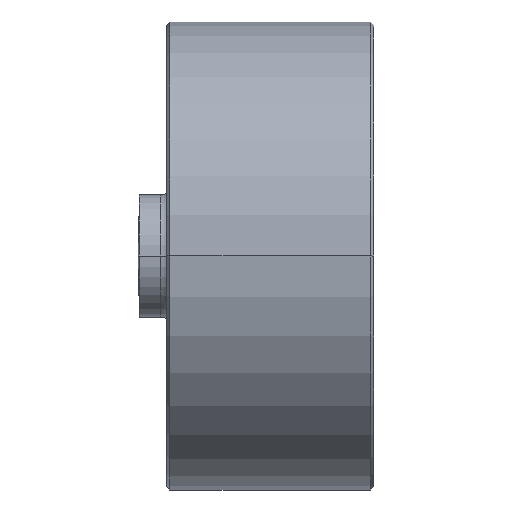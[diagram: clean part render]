
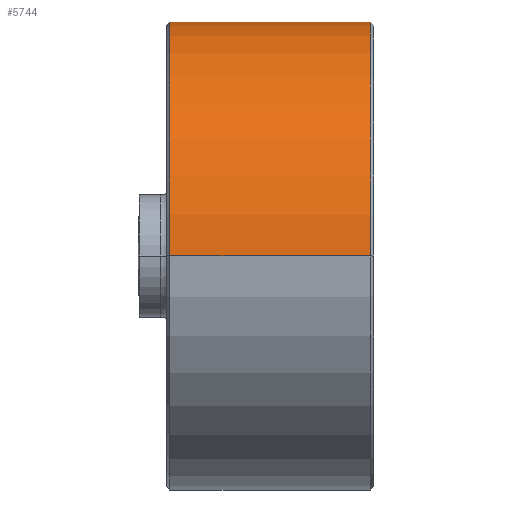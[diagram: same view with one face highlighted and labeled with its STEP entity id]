
A CAD part, left-side view. The second image highlights one B-rep face of the part: STEP entity #5744.
In plain terms, the highlighted cylindrical face has radius 37.85 mm (diameter 75.7 mm), a partial arc.
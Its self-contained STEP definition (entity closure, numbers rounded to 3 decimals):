
#2693 = CARTESIAN_POINT ( 'NONE',  ( 0., 0.5, 0. ) ) ;
#2695 = DIRECTION ( 'NONE',  ( 0., 1., 0. ) ) ;
#2697 = DIRECTION ( 'NONE',  ( -1., 0., 0. ) ) ;
#2867 = LINE ( 'NONE', #2883, #17584 ) ;
#2883 = CARTESIAN_POINT ( 'NONE',  ( 37.85, 0., 0. ) ) ;
#2887 = DIRECTION ( 'NONE',  ( 0., -1., 0. ) ) ;
#4208 = CARTESIAN_POINT ( 'NONE',  ( 37.781, 5.573, 2.277 ) ) ;
#4209 = CARTESIAN_POINT ( 'NONE',  ( 37.789, 5.864, 2.157 ) ) ;
#4210 = CARTESIAN_POINT ( 'NONE',  ( 37.793, 6.002, 2.083 ) ) ;
#4211 = CARTESIAN_POINT ( 'NONE',  ( 37.802, 6.262, 1.909 ) ) ;
#4213 = CARTESIAN_POINT ( 'NONE',  ( 37.807, 6.386, 1.808 ) ) ;
#4214 = CARTESIAN_POINT ( 'NONE',  ( 37.831, 6.882, 1.205 ) ) ;
#4216 = CARTESIAN_POINT ( 'NONE',  ( 37.817, 6.607, 1.587 ) ) ;
#4217 = CARTESIAN_POINT ( 'NONE',  ( 37.822, 6.707, 1.466 ) ) ;
#4220 = CARTESIAN_POINT ( 'NONE',  ( 37.835, 6.957, 1.065 ) ) ;
#4223 = CARTESIAN_POINT ( 'NONE',  ( 37.846, 7.136, 0.632 ) ) ;
#4227 = CARTESIAN_POINT ( 'NONE',  ( 37.85, 7.2, 0.317 ) ) ;
#4228 = CARTESIAN_POINT ( 'NONE',  ( 37.85, 7.2, 0. ) ) ;
#4236 = CARTESIAN_POINT ( 'NONE',  ( 37.779, 5.421, 2.323 ) ) ;
#4266 = CARTESIAN_POINT ( 'NONE',  ( 37.775, 5.115, 2.384 ) ) ;
#4697 = EDGE_CURVE ( 'NONE', #10686, #17283, #9228, .T. ) ;
#5744 = ADVANCED_FACE ( 'NONE', ( #8424 ), #8426, .T. ) ;
#5805 = EDGE_CURVE ( 'NONE', #17089, #17126, #17586, .T. ) ;
#5823 = EDGE_CURVE ( 'NONE', #17161, #17283, #2867, .T. ) ;
#5832 = EDGE_CURVE ( 'NONE', #10671, #17089, #10890, .T. ) ;
#5860 = EDGE_CURVE ( 'NONE', #17222, #10686, #9224, .T. ) ;
#5867 = EDGE_CURVE ( 'NONE', #17161, #10671, #17556, .T. ) ;
#5889 = EDGE_CURVE ( 'NONE', #17222, #17126, #8196, .T. ) ;
#8139 = CARTESIAN_POINT ( 'NONE',  ( 0., 33., 0. ) ) ;
#8140 = DIRECTION ( 'NONE',  ( 0., -1., 0. ) ) ;
#8141 = DIRECTION ( 'NONE',  ( 1., 0., 0. ) ) ;
#8196 = LINE ( 'NONE', #8197, #17297 ) ;
#8197 = CARTESIAN_POINT ( 'NONE',  ( 37.85, 0., 0. ) ) ;
#8207 = DIRECTION ( 'NONE',  ( 0., -1., 0. ) ) ;
#8216 = CARTESIAN_POINT ( 'NONE',  ( -37.85, 33., 0. ) ) ;
#8230 = CARTESIAN_POINT ( 'NONE',  ( 37.774, 4.8, 2.4 ) ) ;
#8245 = CARTESIAN_POINT ( 'NONE',  ( -37.85, 0.5, 0. ) ) ;
#8253 = CARTESIAN_POINT ( 'NONE',  ( 37.85, 0.5, 0. ) ) ;
#8266 = CARTESIAN_POINT ( 'NONE',  ( 37.85, 33., 0. ) ) ;
#8276 = CARTESIAN_POINT ( 'NONE',  ( 37.85, 2.4, 0. ) ) ;
#8293 = CARTESIAN_POINT ( 'NONE',  ( 37.85, 7.2, 0. ) ) ;
#8424 = FACE_OUTER_BOUND ( 'NONE', #17235, .T. ) ;
#8426 = CYLINDRICAL_SURFACE ( 'NONE', #17379, 37.85 ) ;
#8429 = CARTESIAN_POINT ( 'NONE',  ( 0., 0., 0. ) ) ;
#9224 = B_SPLINE_CURVE_WITH_KNOTS ( 'NONE', 3,
 ( #11968, #11933, #11979, #11981, #11983, #11985, #11987, #11989, #11991, #11993, #11995, #11997, #11999, #12001, #12003, #12005 ),
 .UNSPECIFIED., .F., .F.,
 ( 4, 2, 2, 2, 2, 2, 2, 4 ),
 ( 0.008, 0.008, 0.008, 0.009, 0.01, 0.01, 0.011, 0.011 ),
 .UNSPECIFIED. ) ;
#9228 = B_SPLINE_CURVE_WITH_KNOTS ( 'NONE', 3,
 ( #10817, #10786, #4266, #4236, #4208, #4209, #4210, #4211, #4213, #4216, #4217, #4214, #4220, #4223, #4227, #4228 ),
 .UNSPECIFIED., .F., .F.,
 ( 4, 2, 2, 2, 2, 2, 2, 4 ),
 ( 0.011, 0.012, 0.012, 0.013, 0.013, 0.014, 0.014, 0.015 ),
 .UNSPECIFIED. ) ;
#10642 = DIRECTION ( 'NONE',  ( 1., 0., 0. ) ) ;
#10661 = DIRECTION ( 'NONE',  ( 0., -1., 0. ) ) ;
#10671 = VERTEX_POINT ( 'NONE', #8216 ) ;
#10686 = VERTEX_POINT ( 'NONE', #8230 ) ;
#10762 = ORIENTED_EDGE ( 'NONE', *, *, #5860, .T. ) ;
#10786 = CARTESIAN_POINT ( 'NONE',  ( 37.774, 4.958, 2.4 ) ) ;
#10817 = CARTESIAN_POINT ( 'NONE',  ( 37.774, 4.8, 2.4 ) ) ;
#10890 = LINE ( 'NONE', #10895, #17320 ) ;
#10895 = CARTESIAN_POINT ( 'NONE',  ( -37.85, 0., 0. ) ) ;
#10896 = DIRECTION ( 'NONE',  ( 0., -1., 0. ) ) ;
#11933 = CARTESIAN_POINT ( 'NONE',  ( 37.85, 2.4, 0.157 ) ) ;
#11968 = CARTESIAN_POINT ( 'NONE',  ( 37.85, 2.4, 0. ) ) ;
#11979 = CARTESIAN_POINT ( 'NONE',  ( 37.849, 2.415, 0.312 ) ) ;
#11981 = CARTESIAN_POINT ( 'NONE',  ( 37.845, 2.477, 0.622 ) ) ;
#11983 = CARTESIAN_POINT ( 'NONE',  ( 37.842, 2.523, 0.774 ) ) ;
#11985 = CARTESIAN_POINT ( 'NONE',  ( 37.832, 2.702, 1.207 ) ) ;
#11987 = CARTESIAN_POINT ( 'NONE',  ( 37.822, 2.881, 1.475 ) ) ;
#11989 = CARTESIAN_POINT ( 'NONE',  ( 37.807, 3.213, 1.807 ) ) ;
#11991 = CARTESIAN_POINT ( 'NONE',  ( 37.802, 3.337, 1.909 ) ) ;
#11993 = CARTESIAN_POINT ( 'NONE',  ( 37.793, 3.598, 2.083 ) ) ;
#11995 = CARTESIAN_POINT ( 'NONE',  ( 37.789, 3.735, 2.157 ) ) ;
#11997 = CARTESIAN_POINT ( 'NONE',  ( 37.781, 4.026, 2.277 ) ) ;
#11999 = CARTESIAN_POINT ( 'NONE',  ( 37.779, 4.179, 2.323 ) ) ;
#12001 = CARTESIAN_POINT ( 'NONE',  ( 37.775, 4.486, 2.384 ) ) ;
#12003 = CARTESIAN_POINT ( 'NONE',  ( 37.774, 4.642, 2.4 ) ) ;
#12005 = CARTESIAN_POINT ( 'NONE',  ( 37.774, 4.8, 2.4 ) ) ;
#17022 = ORIENTED_EDGE ( 'NONE', *, *, #5889, .F. ) ;
#17023 = ORIENTED_EDGE ( 'NONE', *, *, #5805, .T. ) ;
#17034 = ORIENTED_EDGE ( 'NONE', *, *, #5823, .F. ) ;
#17089 = VERTEX_POINT ( 'NONE', #8245 ) ;
#17126 = VERTEX_POINT ( 'NONE', #8253 ) ;
#17161 = VERTEX_POINT ( 'NONE', #8266 ) ;
#17222 = VERTEX_POINT ( 'NONE', #8276 ) ;
#17225 = ORIENTED_EDGE ( 'NONE', *, *, #4697, .T. ) ;
#17235 = EDGE_LOOP ( 'NONE', ( #17262, #17277, #17023, #17022, #10762, #17225, #17034 ) ) ;
#17262 = ORIENTED_EDGE ( 'NONE', *, *, #5867, .T. ) ;
#17277 = ORIENTED_EDGE ( 'NONE', *, *, #5832, .T. ) ;
#17283 = VERTEX_POINT ( 'NONE', #8293 ) ;
#17297 = VECTOR ( 'NONE', #8207, 1000. ) ;
#17320 = VECTOR ( 'NONE', #10896, 1000. ) ;
#17379 = AXIS2_PLACEMENT_3D ( 'NONE', #8429, #10661, #10642 ) ;
#17500 = AXIS2_PLACEMENT_3D ( 'NONE', #2693, #2695, #2697 ) ;
#17522 = AXIS2_PLACEMENT_3D ( 'NONE', #8139, #8140, #8141 ) ;
#17556 = CIRCLE ( 'NONE', #17522, 37.85 ) ;
#17584 = VECTOR ( 'NONE', #2887, 1000. ) ;
#17586 = CIRCLE ( 'NONE', #17500, 37.85 ) ;
